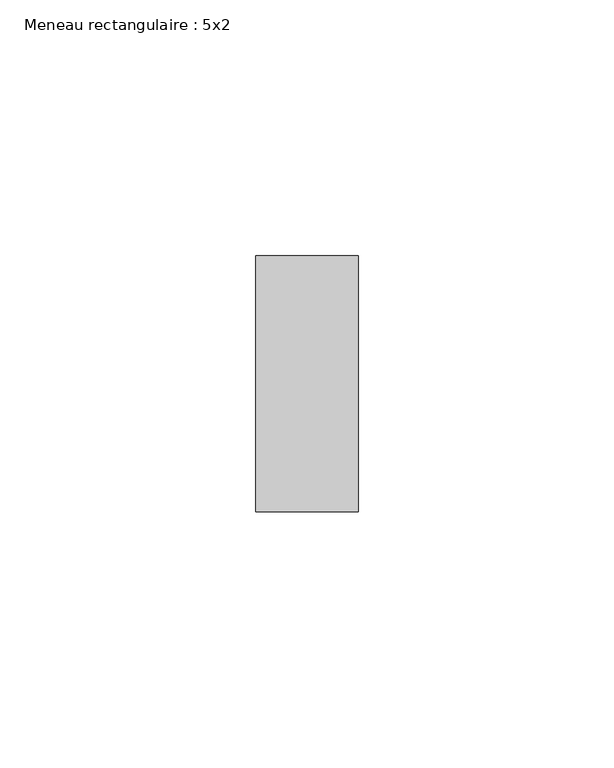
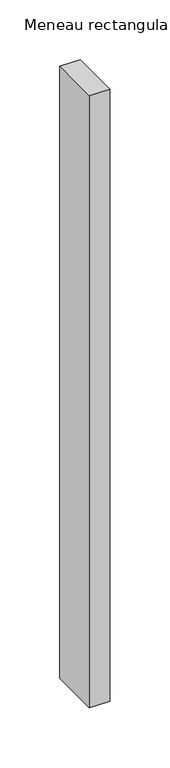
"""IFC4 building model written with IfcOpenShell, lengths in millimetres: member geometry, Meneau rectangulaire : 5x2."""

from ifc_helpers import new_model, si_unit, frame, origin, place, context, project, spatial, polyline, outline, extrude, source, transform, mapped, element, save


def meneau_rectangulaire_5x2_f00b42a9(model_context):
    return source(origin(), model_context, "Body", "SweptSolid", [
        extrude(outline(polyline([(0.0, 25.0), (0.0, -25.0), (-20.0, -25.0), (-20.0, 25.0), (0.0, 25.0)])), frame((0.0, 0.0, -627.6511818), z_axis=(0.0, 0.0, 1.0), x_axis=(1.0, 0.0, 0.0)), (0.0, 0.0, 1.0), 627.6511818),
    ])


if __name__ == "__main__":
    model = new_model("IFC4")
    model_context = context("Model", 3, world=origin())
    ifc_project = project(units=[si_unit("LENGTHUNIT", "METRE", prefix="MILLI")], contexts=[model_context])
    site = spatial("IfcSite", under=ifc_project)
    building = spatial("IfcBuilding", under=site)
    placement = place(None, origin())
    meneau_rectangulaire_5x2_shape = meneau_rectangulaire_5x2_f00b42a9(model_context)
    element("IfcMember", 1, ObjectType="Meneau rectangulaire : 5x2", at=placement, inside=building, context=model_context, shape_type="MappedRepresentation", body=[
        mapped(meneau_rectangulaire_5x2_shape, transform((0.0, 0.0, 0.0), x_axis=(1.0, 0.0, 0.0), y_axis=(0.0, 1.0, 0.0), z_axis=(0.0, 0.0, 1.0))),
    ])
    save(model, "model.ifc")
